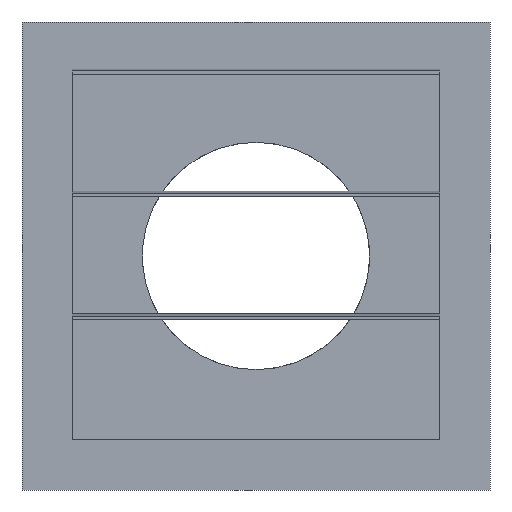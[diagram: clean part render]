
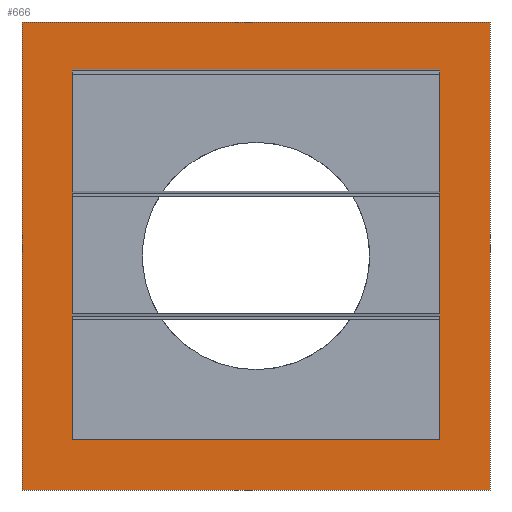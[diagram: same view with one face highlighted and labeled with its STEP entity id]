
A CAD part, front view. The second image highlights one B-rep face of the part: STEP entity #666.
In plain terms, the highlighted planar face has unit normal (0, -1, 0).
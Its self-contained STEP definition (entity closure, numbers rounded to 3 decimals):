
#22=LINE('',#931,#104);
#26=LINE('',#940,#108);
#40=LINE('',#965,#122);
#44=LINE('',#974,#126);
#61=LINE('',#1003,#143);
#62=LINE('',#1006,#144);
#64=LINE('',#1009,#146);
#65=LINE('',#1012,#147);
#68=LINE('',#1017,#150);
#71=LINE('',#1022,#153);
#73=LINE('',#1029,#155);
#77=LINE('',#1036,#159);
#82=LINE('',#1045,#164);
#84=LINE('',#1049,#166);
#85=LINE('',#1053,#167);
#86=LINE('',#1055,#168);
#87=LINE('',#1057,#169);
#88=LINE('',#1058,#170);
#104=VECTOR('',#759,10.);
#108=VECTOR('',#765,10.);
#122=VECTOR('',#789,10.);
#126=VECTOR('',#795,10.);
#143=VECTOR('',#822,10.);
#144=VECTOR('',#825,10.);
#146=VECTOR('',#829,10.);
#147=VECTOR('',#832,10.);
#150=VECTOR('',#837,10.);
#153=VECTOR('',#842,10.);
#155=VECTOR('',#850,10.);
#159=VECTOR('',#856,10.);
#164=VECTOR('',#865,10.);
#166=VECTOR('',#871,10.);
#167=VECTOR('',#874,10.);
#168=VECTOR('',#875,10.);
#169=VECTOR('',#876,10.);
#170=VECTOR('',#877,10.);
#208=PLANE('',#718);
#217=FACE_BOUND('',#291,.T.);
#250=FACE_OUTER_BOUND('',#290,.T.);
#290=EDGE_LOOP('',(#594,#595,#596,#597));
#291=EDGE_LOOP('',(#598,#599,#600,#601,#602,#603,#604,#605,#606,#607,#608,
#609,#610,#611));
#317=VERTEX_POINT('',#929);
#318=VERTEX_POINT('',#930);
#321=VERTEX_POINT('',#938);
#322=VERTEX_POINT('',#939);
#327=VERTEX_POINT('',#963);
#328=VERTEX_POINT('',#964);
#331=VERTEX_POINT('',#972);
#332=VERTEX_POINT('',#973);
#339=VERTEX_POINT('',#1001);
#340=VERTEX_POINT('',#1005);
#341=VERTEX_POINT('',#1011);
#343=VERTEX_POINT('',#1020);
#344=VERTEX_POINT('',#1027);
#345=VERTEX_POINT('',#1028);
#350=VERTEX_POINT('',#1051);
#351=VERTEX_POINT('',#1052);
#352=VERTEX_POINT('',#1054);
#353=VERTEX_POINT('',#1056);
#372=EDGE_CURVE('',#317,#318,#22,.T.);
#376=EDGE_CURVE('',#321,#322,#26,.T.);
#390=EDGE_CURVE('',#327,#328,#40,.T.);
#394=EDGE_CURVE('',#331,#332,#44,.T.);
#411=EDGE_CURVE('',#328,#339,#61,.T.);
#412=EDGE_CURVE('',#340,#317,#62,.T.);
#414=EDGE_CURVE('',#318,#327,#64,.T.);
#415=EDGE_CURVE('',#341,#331,#65,.T.);
#418=EDGE_CURVE('',#332,#321,#68,.T.);
#421=EDGE_CURVE('',#322,#343,#71,.T.);
#423=EDGE_CURVE('',#344,#345,#73,.T.);
#427=EDGE_CURVE('',#345,#341,#77,.T.);
#432=EDGE_CURVE('',#339,#344,#82,.T.);
#434=EDGE_CURVE('',#343,#340,#84,.T.);
#435=EDGE_CURVE('',#350,#351,#85,.T.);
#436=EDGE_CURVE('',#351,#352,#86,.T.);
#437=EDGE_CURVE('',#352,#353,#87,.T.);
#438=EDGE_CURVE('',#353,#350,#88,.T.);
#594=ORIENTED_EDGE('',*,*,#435,.T.);
#595=ORIENTED_EDGE('',*,*,#436,.T.);
#596=ORIENTED_EDGE('',*,*,#437,.T.);
#597=ORIENTED_EDGE('',*,*,#438,.T.);
#598=ORIENTED_EDGE('',*,*,#427,.T.);
#599=ORIENTED_EDGE('',*,*,#415,.T.);
#600=ORIENTED_EDGE('',*,*,#394,.T.);
#601=ORIENTED_EDGE('',*,*,#418,.T.);
#602=ORIENTED_EDGE('',*,*,#376,.T.);
#603=ORIENTED_EDGE('',*,*,#421,.T.);
#604=ORIENTED_EDGE('',*,*,#434,.T.);
#605=ORIENTED_EDGE('',*,*,#412,.T.);
#606=ORIENTED_EDGE('',*,*,#372,.T.);
#607=ORIENTED_EDGE('',*,*,#414,.T.);
#608=ORIENTED_EDGE('',*,*,#390,.T.);
#609=ORIENTED_EDGE('',*,*,#411,.T.);
#610=ORIENTED_EDGE('',*,*,#432,.T.);
#611=ORIENTED_EDGE('',*,*,#423,.T.);
#666=ADVANCED_FACE('',(#250,#217),#208,.T.);
#718=AXIS2_PLACEMENT_3D('',#1050,#872,#873);
#759=DIRECTION('',(0.,0.,1.));
#765=DIRECTION('',(0.,0.,-1.));
#789=DIRECTION('',(0.,0.,1.));
#795=DIRECTION('',(0.,0.,-1.));
#822=DIRECTION('',(0.,0.,1.));
#825=DIRECTION('',(0.,0.,1.));
#829=DIRECTION('',(0.,0.,1.));
#832=DIRECTION('',(0.,0.,-1.));
#837=DIRECTION('',(0.,0.,-1.));
#842=DIRECTION('',(0.,0.,-1.));
#850=DIRECTION('',(1.,0.,0.));
#856=DIRECTION('',(0.,0.,-1.));
#865=DIRECTION('',(0.,0.,1.));
#871=DIRECTION('',(-1.,0.,0.));
#872=DIRECTION('center_axis',(0.,-1.,0.));
#873=DIRECTION('ref_axis',(0.,0.,-1.));
#874=DIRECTION('',(1.,0.,0.));
#875=DIRECTION('',(0.,0.,1.));
#876=DIRECTION('',(-1.,0.,0.));
#877=DIRECTION('',(0.,0.,-1.));
#929=CARTESIAN_POINT('',(-55.,-7.5,-18.464));
#930=CARTESIAN_POINT('',(-55.,-7.5,-17.464));
#931=CARTESIAN_POINT('',(-55.,-7.5,-27.5));
#938=CARTESIAN_POINT('',(55.,-7.5,-17.464));
#939=CARTESIAN_POINT('',(55.,-7.5,-18.464));
#940=CARTESIAN_POINT('',(55.,-7.5,27.5));
#963=CARTESIAN_POINT('',(-55.,-7.5,18.202));
#964=CARTESIAN_POINT('',(-55.,-7.5,19.203));
#965=CARTESIAN_POINT('',(-55.,-7.5,-27.5));
#972=CARTESIAN_POINT('',(55.,-7.5,19.203));
#973=CARTESIAN_POINT('',(55.,-7.5,18.202));
#974=CARTESIAN_POINT('',(55.,-7.5,27.5));
#1001=CARTESIAN_POINT('',(-55.,-7.5,54.869));
#1003=CARTESIAN_POINT('',(-55.,-7.5,-27.5));
#1005=CARTESIAN_POINT('',(-55.,-7.5,-55.));
#1006=CARTESIAN_POINT('',(-55.,-7.5,-27.5));
#1009=CARTESIAN_POINT('',(-55.,-7.5,-27.5));
#1011=CARTESIAN_POINT('',(55.,-7.5,54.869));
#1012=CARTESIAN_POINT('',(55.,-7.5,27.5));
#1017=CARTESIAN_POINT('',(55.,-7.5,27.5));
#1020=CARTESIAN_POINT('',(55.,-7.5,-55.));
#1022=CARTESIAN_POINT('',(55.,-7.5,27.5));
#1027=CARTESIAN_POINT('',(-55.,-7.5,55.869));
#1028=CARTESIAN_POINT('',(55.,-7.5,55.869));
#1029=CARTESIAN_POINT('',(0.,-7.5,55.869));
#1036=CARTESIAN_POINT('',(55.,-7.5,27.5));
#1045=CARTESIAN_POINT('',(-55.,-7.5,27.5));
#1049=CARTESIAN_POINT('',(27.5,-7.5,-55.));
#1050=CARTESIAN_POINT('Origin',(0.,-7.5,0.));
#1051=CARTESIAN_POINT('',(-70.,-7.5,-70.));
#1052=CARTESIAN_POINT('',(70.,-7.5,-70.));
#1053=CARTESIAN_POINT('',(-70.,-7.5,-70.));
#1054=CARTESIAN_POINT('',(70.,-7.5,70.));
#1055=CARTESIAN_POINT('',(70.,-7.5,-70.));
#1056=CARTESIAN_POINT('',(-70.,-7.5,70.));
#1057=CARTESIAN_POINT('',(70.,-7.5,70.));
#1058=CARTESIAN_POINT('',(-70.,-7.5,70.));
